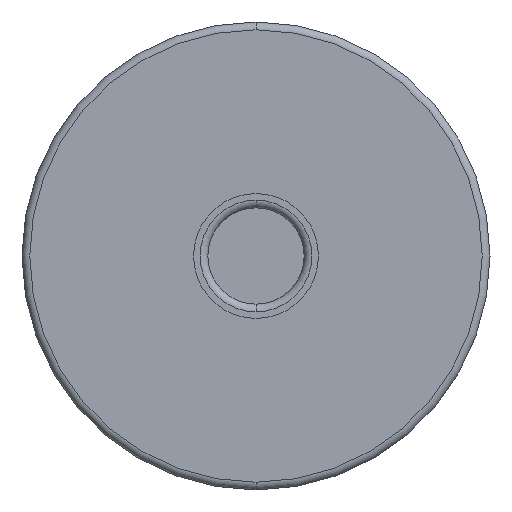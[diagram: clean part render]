
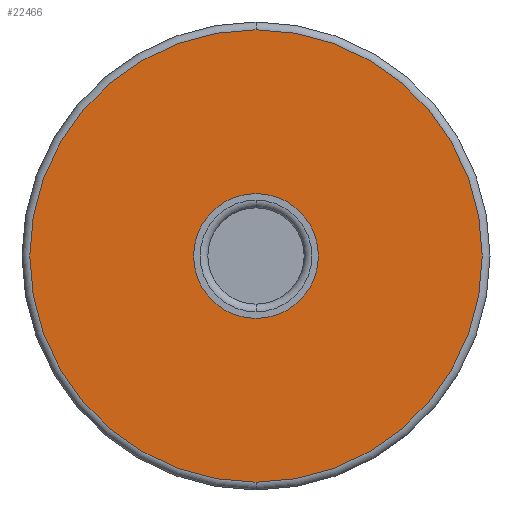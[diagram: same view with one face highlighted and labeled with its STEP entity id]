
A CAD part, front view. The second image highlights one B-rep face of the part: STEP entity #22466.
In plain terms, the highlighted planar face has unit normal (0, -1, 0).
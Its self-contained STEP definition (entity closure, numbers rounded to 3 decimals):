
#3179 = DIRECTION ( 'NONE',  ( 0., 0., 1. ) ) ;
#4850 = CIRCLE ( 'NONE', #61321, 43.5 ) ;
#8909 = CIRCLE ( 'NONE', #62214, 43.5 ) ;
#10075 = DIRECTION ( 'NONE',  ( 0., 0., -1. ) ) ;
#10179 = CARTESIAN_POINT ( 'NONE',  ( 52.541, -19.906, 111.953 ) ) ;
#10594 = PLANE ( 'NONE',  #62302 ) ;
#11600 = EDGE_CURVE ( 'NONE', #39181, #50384, #8909, .T. ) ;
#14463 = CARTESIAN_POINT ( 'NONE',  ( 52.541, -19.906, 155.453 ) ) ;
#15727 = DIRECTION ( 'NONE',  ( 0., 1., 0. ) ) ;
#18574 = DIRECTION ( 'NONE',  ( 0., -1., 0. ) ) ;
#20179 = FACE_BOUND ( 'NONE', #36008, .T. ) ;
#21359 = ORIENTED_EDGE ( 'NONE', *, *, #56322, .T. ) ;
#22466 = ADVANCED_FACE ( 'NONE', ( #45526, #20179 ), #10594, .F. ) ;
#27750 = CARTESIAN_POINT ( 'NONE',  ( 52.541, -19.906, 111.953 ) ) ;
#29738 = DIRECTION ( 'NONE',  ( 0., -1., 0. ) ) ;
#30125 = CARTESIAN_POINT ( 'NONE',  ( 40.541, -19.906, 111.953 ) ) ;
#33990 = EDGE_CURVE ( 'NONE', #44682, #54593, #47321, .T. ) ;
#35263 = DIRECTION ( 'NONE',  ( 1., 0., 0. ) ) ;
#36008 = EDGE_LOOP ( 'NONE', ( #45061, #63555 ) ) ;
#38784 = EDGE_CURVE ( 'NONE', #54593, #44682, #39199, .T. ) ;
#39181 = VERTEX_POINT ( 'NONE', #14463 ) ;
#39199 = CIRCLE ( 'NONE', #45303, 12. ) ;
#39603 = DIRECTION ( 'NONE',  ( 0., -1., 0. ) ) ;
#44682 = VERTEX_POINT ( 'NONE', #63124 ) ;
#44993 = EDGE_LOOP ( 'NONE', ( #62048, #21359 ) ) ;
#45061 = ORIENTED_EDGE ( 'NONE', *, *, #33990, .F. ) ;
#45303 = AXIS2_PLACEMENT_3D ( 'NONE', #10179, #29738, #55758 ) ;
#45526 = FACE_OUTER_BOUND ( 'NONE', #44993, .T. ) ;
#46704 = DIRECTION ( 'NONE',  ( 0., -1., 0. ) ) ;
#47321 = CIRCLE ( 'NONE', #56556, 12. ) ;
#47345 = DIRECTION ( 'NONE',  ( 0., 0., 1. ) ) ;
#50384 = VERTEX_POINT ( 'NONE', #52503 ) ;
#51414 = CARTESIAN_POINT ( 'NONE',  ( 52.541, -19.906, 123.953 ) ) ;
#52316 = CARTESIAN_POINT ( 'NONE',  ( 52.541, -19.906, 111.953 ) ) ;
#52503 = CARTESIAN_POINT ( 'NONE',  ( 52.541, -19.906, 68.453 ) ) ;
#54061 = CARTESIAN_POINT ( 'NONE',  ( 52.541, -19.906, 111.953 ) ) ;
#54593 = VERTEX_POINT ( 'NONE', #51414 ) ;
#55758 = DIRECTION ( 'NONE',  ( 0., 0., -1. ) ) ;
#56322 = EDGE_CURVE ( 'NONE', #50384, #39181, #4850, .T. ) ;
#56556 = AXIS2_PLACEMENT_3D ( 'NONE', #54061, #39603, #10075 ) ;
#61321 = AXIS2_PLACEMENT_3D ( 'NONE', #52316, #18574, #3179 ) ;
#62048 = ORIENTED_EDGE ( 'NONE', *, *, #11600, .T. ) ;
#62214 = AXIS2_PLACEMENT_3D ( 'NONE', #27750, #46704, #47345 ) ;
#62302 = AXIS2_PLACEMENT_3D ( 'NONE', #30125, #15727, #35263 ) ;
#63124 = CARTESIAN_POINT ( 'NONE',  ( 52.541, -19.906, 99.953 ) ) ;
#63555 = ORIENTED_EDGE ( 'NONE', *, *, #38784, .F. ) ;
